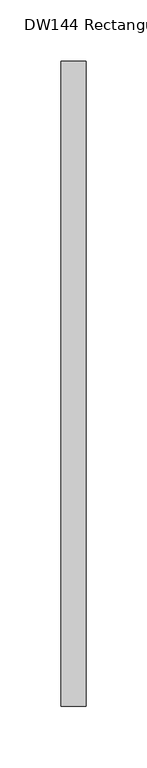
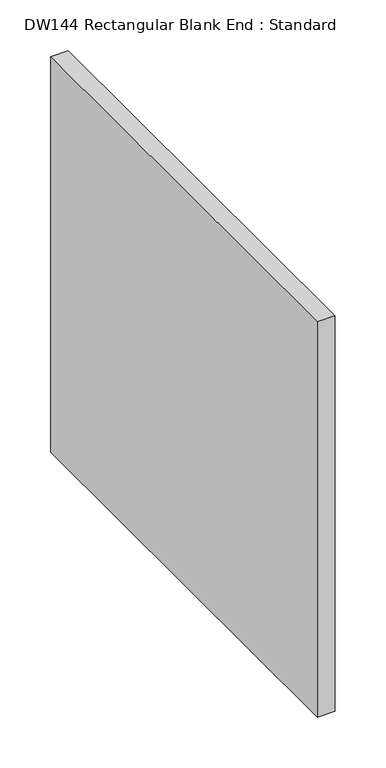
"""IFC4 building model written with IfcOpenShell, lengths in millimetres: duct fitting geometry, DW144 Rectangular Blank End : Standard."""

import ifcopenshell
import ifcopenshell.guid

model = None  # the IFC model being written
_history = None  # IfcOwnerHistory: only IFC2X3 demands one
_inside = {}  # id of a spatial element -> (the spatial element, [elements in it])
_under = {}  # id of a project, library or spatial element -> (it, [spatial elements below it])
_declared = {}  # id of a project -> (the project, [libraries it declares])
_typed = {}  # id of a type object -> (the type object, [elements of that type])
_made_of = {}  # id of a material, layer set ... -> (it, [elements and type objects made of it])


def new_model(schema):
    """Start an empty IFC model of exactly this schema.

    Asked for "IFC4X3", IfcOpenShell would pick the latest addendum, in which some entities
    have other attributes; the version numbers below select the first issue.
    IFC2X3 requires an IfcOwnerHistory on every rooted entity: one is made here for all.
    """
    global model, _history
    if schema == "IFC4X3":
        model = ifcopenshell.file(schema_version=(4, 3, 0, 0))
    else:
        model = ifcopenshell.file(schema=schema)
    _inside.clear()
    _under.clear()
    _declared.clear()
    _typed.clear()
    _made_of.clear()
    _history = None
    if model.schema == "IFC2X3":
        org = make("IfcOrganization", Name="unknown")
        user = make(
            "IfcPersonAndOrganization",
            ThePerson=make("IfcPerson", FamilyName="unknown"),
            TheOrganization=org,
        )
        app = make(
            "IfcApplication",
            ApplicationDeveloper=org,
            Version="unknown",
            ApplicationFullName="unknown",
            ApplicationIdentifier="unknown",
        )
        _history = make(
            "IfcOwnerHistory",
            OwningUser=user,
            OwningApplication=app,
            ChangeAction="ADDED",
            CreationDate=0,
        )
    return model


def make(cls, **values):
    """One entity of the class cls with the attributes given. An attribute that is None is left unset."""
    return model.create_entity(
        cls, **{name: value for name, value in values.items() if value is not None}
    )


def rooted(cls, **values):
    """An entity with a GlobalId (a new one), such as an element, a storey or a relation."""
    return make(cls, GlobalId=ifcopenshell.guid.new(), OwnerHistory=_history, **values)


def si_unit(unit_type, name, prefix=None):
    """IfcSIUnit, for example si_unit("LENGTHUNIT", "METRE", prefix="MILLI")."""
    return make("IfcSIUnit", UnitType=unit_type, Prefix=prefix, Name=name)


def assignment(units):
    """IfcUnitAssignment: the units of a project."""
    return None if units is None else make("IfcUnitAssignment", Units=units)


def point(xyz):
    """IfcCartesianPoint."""
    return None if xyz is None else make("IfcCartesianPoint", Coordinates=xyz)


def direction(xyz):
    """IfcDirection."""
    return None if xyz is None else make("IfcDirection", DirectionRatios=xyz)


def frame(location, z_axis=None, x_axis=None):
    """IfcAxis2Placement3D, a coordinate frame: its origin and axes. An axis left out is left unset."""
    return make(
        "IfcAxis2Placement3D",
        Location=point(location),
        Axis=direction(z_axis),
        RefDirection=direction(x_axis),
    )


def origin():
    """The frame at (0, 0, 0) with its axes left unset."""
    return frame((0.0, 0.0, 0.0))


def place(relative_to, where):
    """IfcLocalPlacement: puts the frame where relative to a parent placement (None: the world)."""
    return make(
        "IfcLocalPlacement", PlacementRelTo=relative_to, RelativePlacement=where
    )


def context(
    kind, dimensions, precision=None, world=None, true_north=None, identifier=None
):
    """IfcGeometricRepresentationContext, for example the 3D "Model" context."""
    return make(
        "IfcGeometricRepresentationContext",
        ContextIdentifier=identifier,
        ContextType=kind,
        CoordinateSpaceDimension=dimensions,
        Precision=precision,
        WorldCoordinateSystem=world,
        TrueNorth=true_north,
    )


def project(units=None, contexts=None):
    """IfcProject with its units and contexts."""
    return rooted(
        "IfcProject",
        Name="project",
        RepresentationContexts=contexts,
        UnitsInContext=assignment(units),
    )


def spatial(cls, under=None, at=None, **own):
    """A site, building, storey or space (cls), placed at a placement, below another one or the project."""
    s = rooted(cls, ObjectPlacement=at, **own)
    if under is not None:
        _under.setdefault(under.id(), (under, []))[1].append(s)
    return s


def polyline(points):
    """IfcPolyline through the points."""
    return make("IfcPolyline", Points=[point(p) for p in points])


def outline(outer, holes=None, kind="AREA"):
    """IfcArbitraryClosedProfileDef: a profile drawn as a closed curve; with holes, ...WithVoids."""
    if holes is None:
        return make("IfcArbitraryClosedProfileDef", ProfileType=kind, OuterCurve=outer)
    return make(
        "IfcArbitraryProfileDefWithVoids",
        ProfileType=kind,
        OuterCurve=outer,
        InnerCurves=holes,
    )


def extrude(swept, where, along, depth):
    """IfcExtrudedAreaSolid: the profile swept, set in the frame where, extruded along a direction by depth."""
    return make(
        "IfcExtrudedAreaSolid",
        SweptArea=swept,
        Position=where,
        ExtrudedDirection=direction(along),
        Depth=depth,
    )


def shape(context_of_items, identifier, shape_type, items):
    """IfcShapeRepresentation: the items that make up one representation, for example the "Body"."""
    return make(
        "IfcShapeRepresentation",
        ContextOfItems=context_of_items,
        RepresentationIdentifier=identifier,
        RepresentationType=shape_type,
        Items=items,
    )


def source(mapping_origin, context_of_items, identifier, shape_type, items):
    """IfcRepresentationMap: a shape defined once, which mapped items show again and again."""
    return make(
        "IfcRepresentationMap",
        MappingOrigin=mapping_origin,
        MappedRepresentation=shape(context_of_items, identifier, shape_type, items),
    )


def transform(
    local_origin,
    x_axis=None,
    y_axis=None,
    z_axis=None,
    scale=None,
    scale2=None,
    scale3=None,
    uniform=True,
):
    """IfcCartesianTransformationOperator3D, or its non-uniform kind. x_axis, y_axis, z_axis: its Axis1, 2, 3."""
    if uniform:
        return make(
            "IfcCartesianTransformationOperator3D",
            Axis1=direction(x_axis),
            Axis2=direction(y_axis),
            LocalOrigin=point(local_origin),
            Scale=scale,
            Axis3=direction(z_axis),
        )
    return make(
        "IfcCartesianTransformationOperator3DnonUniform",
        Axis1=direction(x_axis),
        Axis2=direction(y_axis),
        LocalOrigin=point(local_origin),
        Scale=scale,
        Axis3=direction(z_axis),
        Scale2=scale2,
        Scale3=scale3,
    )


def mapped(mapping_source, mapping_target):
    """IfcMappedItem: shows the shape of a source again, moved by a transform."""
    return make(
        "IfcMappedItem", MappingSource=mapping_source, MappingTarget=mapping_target
    )


def made_of(thing, what):
    """Note that an element or type object is made of a material, layer set ...; save() writes the relation."""
    if what is not None:
        _made_of.setdefault(what.id(), (what, []))[1].append(thing)
    return thing


def element(
    cls,
    number,
    at=None,
    inside=None,
    cuts=None,
    type_object=None,
    material=None,
    context=None,
    identifier="Body",
    shape_type=None,
    held_by="IfcProductDefinitionShape",
    body=None,
    shapes=None,
    **own,
):
    """One element of the class cls, such as IfcWall. Its Tag is "e" and its number.

    at: its placement. inside: the storey or other place that contains it. cuts: it is an
    opening in that element (IfcRelVoidsElement). A single representation is given by context,
    identifier, shape_type and body (its items); several are given by shapes. held_by: the class
    of the entity that holds the representations. save() writes the other relations.
    """
    e = rooted(cls, Tag="e%d" % number, ObjectPlacement=at, **own)
    if body is not None:
        shapes = [shape(context, identifier, shape_type, body)]
    if shapes is not None:
        e.Representation = make(held_by, Representations=shapes)
    if inside is not None:
        _inside.setdefault(inside.id(), (inside, []))[1].append(e)
    if cuts is not None:
        rooted(
            "IfcRelVoidsElement", RelatingBuildingElement=cuts, RelatedOpeningElement=e
        )
    if type_object is not None:
        _typed.setdefault(type_object.id(), (type_object, []))[1].append(e)
    return made_of(e, material)


def aggregate(whole, parts):
    """IfcRelAggregates: a whole, such as a stair, and the parts it consists of."""
    return rooted("IfcRelAggregates", RelatingObject=whole, RelatedObjects=parts)


def save(model, path):
    """Write the relations noted so far, then the file.

    IfcRelAggregates (storeys below a building ...), IfcRelContainedInSpatialStructure (elements
    in a storey), IfcRelDefinesByType, IfcRelAssociatesMaterial and IfcRelDeclares: one each for
    every whole, place, type object, material and project.
    """
    for whole, parts in _under.values():
        aggregate(whole, parts)
    for where, things in _inside.values():
        rooted(
            "IfcRelContainedInSpatialStructure",
            RelatedElements=things,
            RelatingStructure=where,
        )
    for kind, things in _typed.values():
        rooted("IfcRelDefinesByType", RelatedObjects=things, RelatingType=kind)
    for what, things in _made_of.values():
        rooted("IfcRelAssociatesMaterial", RelatedObjects=things, RelatingMaterial=what)
    for by, libraries in _declared.values():
        rooted("IfcRelDeclares", RelatingContext=by, RelatedDefinitions=libraries)
    model.write(path)


def dw144_rectangular_blank_end_standard_49db9699(model_context):
    return source(origin(), model_context, "Body", "SweptSolid", [
        extrude(outline(polyline([(20.0, 262.5), (20.0, -262.5), (0.0, -262.5), (0.0, 262.5), (20.0, 262.5)])), frame((0.0, 0.0, -237.5), z_axis=(0.0, 0.0, 1.0), x_axis=(1.0, 0.0, 0.0)), (0.0, 0.0, 1.0), 475.0),
    ])


if __name__ == "__main__":
    model = new_model("IFC4")
    model_context = context("Model", 3, world=origin())
    ifc_project = project(units=[si_unit("LENGTHUNIT", "METRE", prefix="MILLI")], contexts=[model_context])
    site = spatial("IfcSite", under=ifc_project)
    building = spatial("IfcBuilding", under=site)
    placement = place(None, origin())
    dw144_rectangular_blank_end_standard_shape = dw144_rectangular_blank_end_standard_49db9699(model_context)
    element("IfcDuctFitting", 1, ObjectType="DW144 Rectangular Blank End : Standard", at=placement, inside=building, context=model_context, shape_type="MappedRepresentation", body=[
        mapped(dw144_rectangular_blank_end_standard_shape, transform((0.0, 0.0, 0.0), x_axis=(1.0, 0.0, 0.0), y_axis=(0.0, 1.0, 0.0), z_axis=(0.0, 0.0, 1.0))),
    ])
    save(model, "model.ifc")
